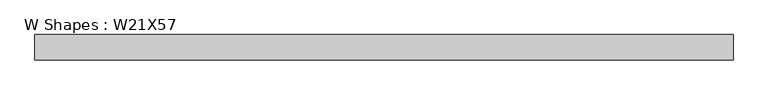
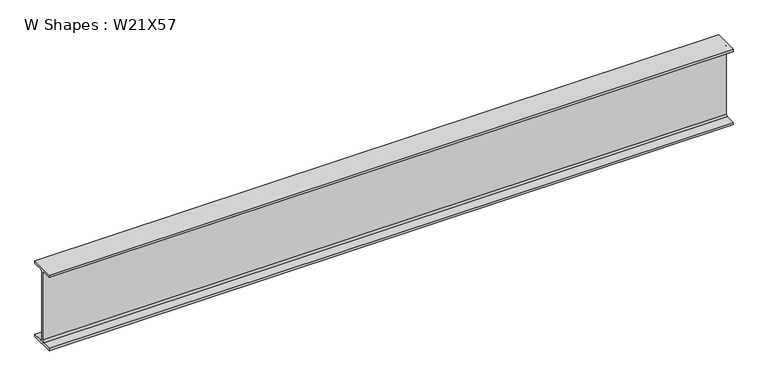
"""IFC4 building model written with IfcOpenShell, lengths in millimetres: beam geometry, W Shapes : W21X57."""

from ifc_helpers import new_model, si_unit, point, frame, frame_2d, origin, place, context, project, spatial, polyline, circle_curve, trimmed, segment, composite_curve, outline, extrude, source, transform, mapped, element, save


def w_shapes_w21x57_a7133147(model_context):
    return source(origin(), model_context, "Body", "SweptSolid", [
        extrude(outline(composite_curve([segment(polyline([(83.312, -251.46), (83.312, -267.97), (-83.312, -267.97), (-83.312, -251.46), (-17.907, -251.46)]), True, "CONTINUOUS"), segment(trimmed(circle_curve(frame_2d((-17.907, -238.76)), 12.7), [point((-17.907, -251.46))], [point((-5.207, -238.76))], True, "CARTESIAN"), True, "CONTINUOUS"), segment(polyline([(-5.207, -238.76), (-5.207, 238.76)]), True, "CONTINUOUS"), segment(trimmed(circle_curve(frame_2d((-17.907, 238.76)), 12.7), [point((-5.207, 238.76))], [point((-17.907, 251.46))], True, "CARTESIAN"), True, "CONTINUOUS"), segment(polyline([(-17.907, 251.46), (-83.312, 251.46), (-83.312, 267.97), (83.312, 267.97), (83.312, 251.46), (17.907, 251.46)]), True, "CONTINUOUS"), segment(trimmed(circle_curve(frame_2d((17.907, 238.76)), 12.7), [point((17.907, 251.46))], [point((5.207, 238.76))], True, "CARTESIAN"), True, "CONTINUOUS"), segment(polyline([(5.207, 238.76), (5.207, -238.76)]), True, "CONTINUOUS"), segment(trimmed(circle_curve(frame_2d((17.907, -238.76)), 12.7), [point((5.207, -238.76))], [point((17.907, -251.46))], True, "CARTESIAN"), True, "CONTINUOUS"), segment(polyline([(17.907, -251.46), (83.312, -251.46)]), True, "CONTINUOUS")], self_intersect=False)), frame((-2290.439694, 0.0, 0.0), z_axis=(1.0, 0.0, 0.0), x_axis=(0.0, 1.0, 0.0)), (0.0, 0.0, 1.0), 4580.879388),
    ])


if __name__ == "__main__":
    model = new_model("IFC4")
    model_context = context("Model", 3, world=origin())
    ifc_project = project(units=[si_unit("LENGTHUNIT", "METRE", prefix="MILLI")], contexts=[model_context])
    site = spatial("IfcSite", under=ifc_project)
    building = spatial("IfcBuilding", under=site)
    placement = place(None, origin())
    w_shapes_w21x57_shape = w_shapes_w21x57_a7133147(model_context)
    element("IfcBeam", 1, ObjectType="W Shapes : W21X57", at=placement, inside=building, context=model_context, shape_type="MappedRepresentation", body=[
        mapped(w_shapes_w21x57_shape, transform((0.0, 0.0, 0.0), x_axis=(1.0, 0.0, 0.0), y_axis=(0.0, 1.0, 0.0), z_axis=(0.0, 0.0, 1.0))),
    ])
    save(model, "model.ifc")
